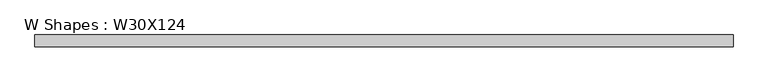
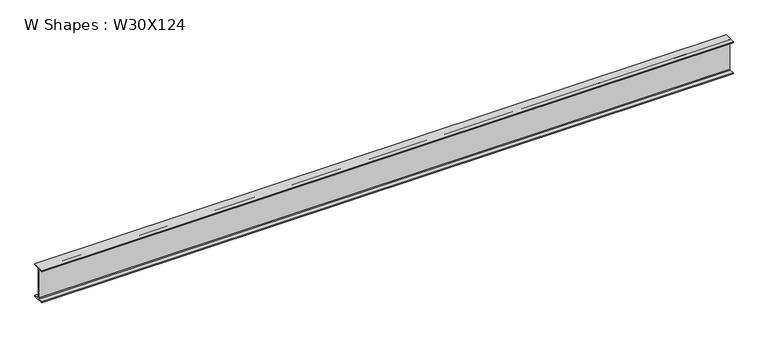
"""IFC4 building model written with IfcOpenShell, lengths in millimetres: beam geometry, W Shapes : W30X124."""

from ifc_helpers import new_model, si_unit, point, frame, frame_2d, origin, place, context, project, spatial, polyline, circle_curve, trimmed, segment, composite_curve, outline, extrude, source, transform, mapped, element, save


def w_shapes_w30x124_813c827b(model_context):
    return source(origin(), model_context, "Body", "SweptSolid", [
        extrude(outline(composite_curve([segment(polyline([(133.35, -359.918), (133.35, -383.54), (-133.35, -383.54), (-133.35, -359.918), (-23.9395, -359.918)]), True, "CONTINUOUS"), segment(trimmed(circle_curve(frame_2d((-23.9395, -343.408)), 16.51), [point((-23.9395, -359.918))], [point((-7.4295, -343.408))], True, "CARTESIAN"), True, "CONTINUOUS"), segment(polyline([(-7.4295, -343.408), (-7.4295, 343.408)]), True, "CONTINUOUS"), segment(trimmed(circle_curve(frame_2d((-23.9395, 343.408)), 16.51), [point((-7.4295, 343.408))], [point((-23.9395, 359.918))], True, "CARTESIAN"), True, "CONTINUOUS"), segment(polyline([(-23.9395, 359.918), (-133.35, 359.918), (-133.35, 383.54), (133.35, 383.54), (133.35, 359.918), (23.9395, 359.918)]), True, "CONTINUOUS"), segment(trimmed(circle_curve(frame_2d((23.9395, 343.408)), 16.51), [point((23.9395, 359.918))], [point((7.4295, 343.408))], True, "CARTESIAN"), True, "CONTINUOUS"), segment(polyline([(7.4295, 343.408), (7.4295, -343.408)]), True, "CONTINUOUS"), segment(trimmed(circle_curve(frame_2d((23.9395, -343.408)), 16.51), [point((7.4295, -343.408))], [point((23.9395, -359.918))], True, "CARTESIAN"), True, "CONTINUOUS"), segment(polyline([(23.9395, -359.918), (133.35, -359.918)]), True, "CONTINUOUS")], self_intersect=False)), frame((-7787.9089974, 0.0, 0.0), z_axis=(1.0, 0.0, 0.0), x_axis=(0.0, 1.0, 0.0)), (0.0, 0.0, 1.0), 15575.8180178),
    ])


if __name__ == "__main__":
    model = new_model("IFC4")
    model_context = context("Model", 3, world=origin())
    ifc_project = project(units=[si_unit("LENGTHUNIT", "METRE", prefix="MILLI")], contexts=[model_context])
    site = spatial("IfcSite", under=ifc_project)
    building = spatial("IfcBuilding", under=site)
    placement = place(None, origin())
    w_shapes_w30x124_shape = w_shapes_w30x124_813c827b(model_context)
    element("IfcBeam", 1, ObjectType="W Shapes : W30X124", at=placement, inside=building, context=model_context, shape_type="MappedRepresentation", body=[
        mapped(w_shapes_w30x124_shape, transform((0.0, 0.0, 0.0), x_axis=(1.0, 0.0, 0.0), y_axis=(0.0, 1.0, 0.0), z_axis=(0.0, 0.0, 1.0))),
    ])
    save(model, "model.ifc")
